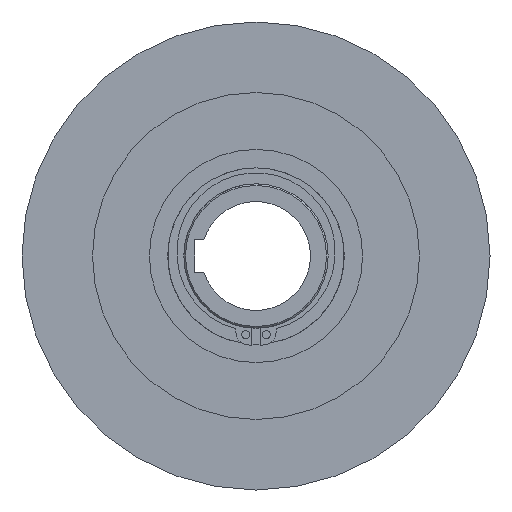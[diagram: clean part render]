
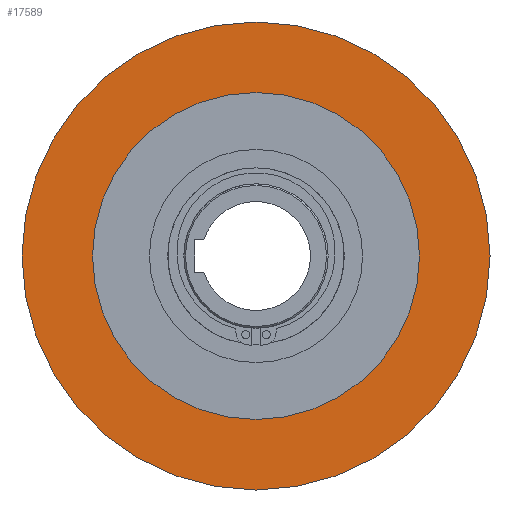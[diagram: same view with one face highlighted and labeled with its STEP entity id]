
A CAD part, left-side view. The second image highlights one B-rep face of the part: STEP entity #17589.
In plain terms, the highlighted planar face has unit normal (-1, 0, 0).
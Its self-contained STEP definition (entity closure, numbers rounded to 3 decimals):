
#924=FACE_BOUND('',#4128,.T.);
#1110=PLANE('',#18743);
#3137=FACE_OUTER_BOUND('',#4127,.T.);
#4127=EDGE_LOOP('',(#11748));
#4128=EDGE_LOOP('',(#11749));
#5286=CIRCLE('',#18742,51.);
#5287=CIRCLE('',#18744,73.);
#6701=VERTEX_POINT('',#47293);
#6702=VERTEX_POINT('',#47297);
#8666=EDGE_CURVE('',#6701,#6701,#5286,.T.);
#8667=EDGE_CURVE('',#6702,#6702,#5287,.T.);
#11748=ORIENTED_EDGE('',*,*,#8667,.F.);
#11749=ORIENTED_EDGE('',*,*,#8666,.T.);
#17589=ADVANCED_FACE('',(#3137,#924),#1110,.T.);
#18742=AXIS2_PLACEMENT_3D('',#47295,#21340,#21341);
#18743=AXIS2_PLACEMENT_3D('',#47296,#21342,#21343);
#18744=AXIS2_PLACEMENT_3D('',#47298,#21344,#21345);
#21340=DIRECTION('center_axis',(1.,0.,0.));
#21341=DIRECTION('ref_axis',(0.,1.,0.));
#21342=DIRECTION('center_axis',(-1.,0.,0.));
#21343=DIRECTION('ref_axis',(0.,0.,1.));
#21344=DIRECTION('center_axis',(1.,0.,0.));
#21345=DIRECTION('ref_axis',(0.,1.,0.));
#47293=CARTESIAN_POINT('',(-42.5,-51.,0.));
#47295=CARTESIAN_POINT('Origin',(-42.5,0.,0.));
#47296=CARTESIAN_POINT('Origin',(-42.5,62.,0.));
#47297=CARTESIAN_POINT('',(-42.5,-73.,0.));
#47298=CARTESIAN_POINT('Origin',(-42.5,0.,0.));
